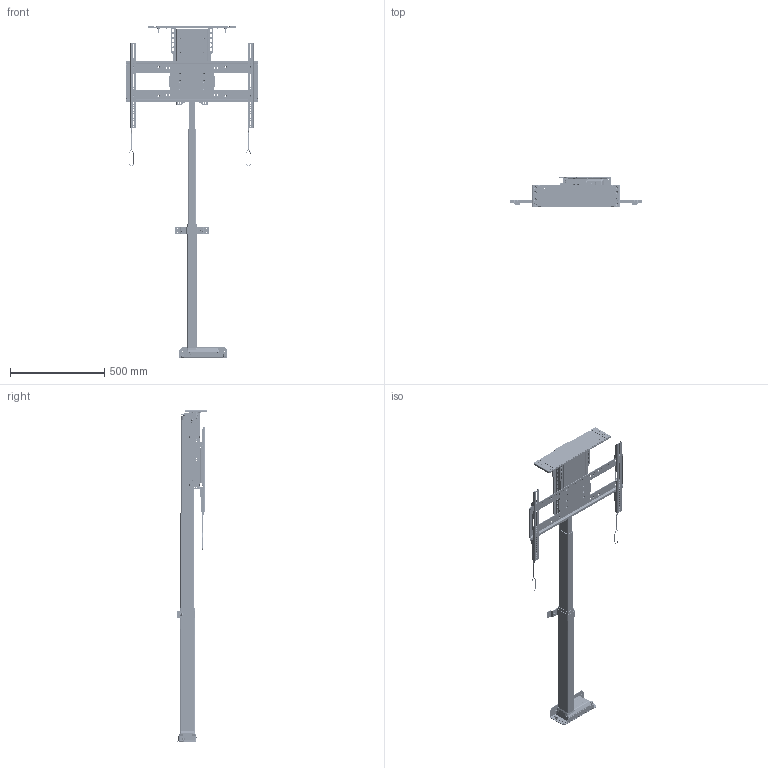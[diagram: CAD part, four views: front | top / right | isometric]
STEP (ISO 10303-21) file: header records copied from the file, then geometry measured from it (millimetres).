
FILE_DESCRIPTION(/* description */ ('STEP AP242','CAx-IF Rec.Pracs.---Representation and Presentation of Product Manufacturing Information (PMI)---4.0---2014-10-13','CAx-IF Rec.Pracs.---3D Tessellated Geometry---0.4---2014-09-14','2;1'),/* implementation_level */ '2;1');
FILE_NAME(/* name */ '63effb88e841dc2814847fd2',/* time_stamp */ '2023-02-17T22:11:25+00:00',/* author */ (''),/* organization */ (''),/* preprocessor_version */ 'ST-DEVELOPER v18.102',/* originating_system */ ' ',/* authorisation */ ' ');
FILE_SCHEMA (('AP242_MANAGED_MODEL_BASED_3D_ENGINEERING_MIM_LF { 1 0 10303 442 1 1 4 }'));
Products named in the file (60): L-65/s; Hex socket countersunk head screw M6x1 x 12; Socket button head screw M6x1 x 12; WDS8151-215; Universal Swivel Master Assembly <1>; Socket button head screw M6x1 x 10; SW-NE-005 - SWIVEL TOP PLATE; NEX-SW-001 - DL16 SWIVEL BOTTOM SPACER; SW-NE-002 - SWIVEL BOTTOM PLATE; ULS-NX-108 - ULS SCREEN SUPPORT WELDMENT <1>; PEM CLS-M6-1  ; F-M6-3 M6 PEM NUT; ULS-NX-008 - UL SCREEN SUPPORT SHELL; ULS-NX-009 - ULS SCREEN SUPPORT TOP PLATE <1>; ULS-NX-009 - UL SCREEN SUPPORT TOP PLATE; Lid Plate Assembly W/ Lid Supports <1>; ULS-NX-012 - ULS LID SUPPORT W PEMS <1>; PEM CLS-M6-2  ; UL LID SUPPORT (ULS-NX-012); ULS-NX-012 - ULS LID SUPPORT W PEMS <2>; LID-FL-ULS - ULS Lid Plate Assembly <1>; ULS-NX-006 - Lid Adapter W/ Pin <1>; OLD_ULS-NX-006 - UL LID ADAPTER <1>; ULS-NX-006 - UL LID ADAPTER; FHS-273-24 PEM; FL Sub Asm <1>; 97069A106_Zinc-Plated Steel Spring Lock Washer; Plain washer large grade A M6; Hex socket countersunk head screw M6x1 x 8; ULS-NX-007 - UL LID PLATE EXTENDER; Hex nut grade C M6x1; NEX-LM-032 LID PIN GUIDE; ULS-NX-005 - UL LID PLATE W PEMS <1>; ULS-NX-005 - UL LID PLATE; PEM FHS-M6-15  ; SBP & VMB <1>; PZ Pan head screw M5x0.80 x 25; ULS-NX-017 - UL SCREEN BACK PLATE; Lanyard; ULS-NX-118 - UL VMB WELDMENT <2>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
Assembly tree (176 placements, depth 6):
  L-65/s
    Hex socket countersunk head screw M6x1 x 12  x16
    Socket button head screw M6x1 x 12  x8
    WDS8151-215  x4
    Universal Swivel Master Assembly <1>
      Socket button head screw M6x1 x 10  x4
      SW-NE-005 - SWIVEL TOP PLATE
      NEX-SW-001 - DL16 SWIVEL BOTTOM SPACER
      SW-NE-002 - SWIVEL BOTTOM PLATE
    ULS-NX-108 - ULS SCREEN SUPPORT WELDMENT <1>
      PEM CLS-M6-1    x32
      F-M6-3 M6 PEM NUT
      ULS-NX-008 - UL SCREEN SUPPORT SHELL
      ULS-NX-009 - ULS SCREEN SUPPORT TOP PLATE <1>
        PEM CLS-M6-1    x4
        ULS-NX-009 - UL SCREEN SUPPORT TOP PLATE
    Lid Plate Assembly W/ Lid Supports <1>
      ULS-NX-012 - ULS LID SUPPORT W PEMS <1>
        PEM CLS-M6-2    x2
        UL LID SUPPORT (ULS-NX-012)
      ULS-NX-012 - ULS LID SUPPORT W PEMS <2>
        PEM CLS-M6-2    x2
        UL LID SUPPORT (ULS-NX-012)
      LID-FL-ULS - ULS Lid Plate Assembly <1>
        ULS-NX-006 - Lid Adapter W/ Pin <1>
          OLD_ULS-NX-006 - UL LID ADAPTER <1>
            ULS-NX-006 - UL LID ADAPTER
            FHS-273-24 PEM  x2
        FL Sub Asm <1>
          97069A106_Zinc-Plated Steel Spring Lock Washer  x4
          Plain washer large grade A M6  x4
          Hex socket countersunk head screw M6x1 x 8  x4
          ULS-NX-007 - UL LID PLATE EXTENDER  x2
          Hex nut grade C M6x1  x4
          NEX-LM-032 LID PIN GUIDE  x2
          ULS-NX-005 - UL LID PLATE W PEMS <1>
            PEM CLS-M6-2    x8
            ULS-NX-005 - UL LID PLATE
            PEM FHS-M6-15    x4
    SBP & VMB <1>
      PZ Pan head screw M5x0.80 x 25  x2
      ULS-NX-017 - UL SCREEN BACK PLATE
      Lanyard  x2
      ULS-NX-118 - UL VMB WELDMENT <2>
        Socket button head cap screw #6-32 x 0.188  x2
        VMB Washer  x4
        ULS-NX-019 - UL LEVEL ADJUSTMENT PLATE
        PEM BSO-632-10  ZI  x2
        90107A012  x2
        ULS-NX-018 - UL VERICAL MOUNTING BAR
        ULS-NX-020 - UL SCREEN LOCK
      ULS-NX-118 - UL VMB WELDMENT <1>
        VMB Washer  x4
        Socket button head cap screw #6-32 x 0.188  x2
        PEM BSO-632-10  ZI  x2
        ULS-NX-020 - UL SCREEN LOCK
        ULS-NX-018 - UL VERICAL MOUNTING BAR
        90107A012  x2
        ULS-NX-019 - UL LEVEL ADJUSTMENT PLATE
    L-65 Lower Sub Assembly <1>
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Bounding box: 698.5 x 159.35 x 1760.38 mm (x, y, z)
Volume: 8977351.4 mm3; surface area: 1895907.9 mm2
Topology: 158 solids, 158 shells, 10943 faces, 29170 edges, 18902 vertices
Faces by surface type: plane 7528, cylinder 1966, cone 734, bspline 463, torus 214, sphere 38
Full cylindrical faces by diameter (mm): 1.778 x2, 2.032 x14, 2.642 x4, 3.175 x10, 3.505 x4, 4.6 x2, 4.917 x53, 5 x22, 5.004 x4, 5.026 x4, 5.08 x4, 5.277 x8, 5.3 x6, 5.385 x12, 5.41 x8, 5.6 x4, 5.613 x6, 5.944 x4, 5.994 x3, 6 x66, 6.35 x22, 6.4 x4, 6.528 x5, 6.6 x10, 6.604 x4, 6.655 x4, 6.934 x2, 6.976 x1, 7.112 x2, 7.137 x1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
Entity records: 102362 total; most frequent: CARTESIAN_POINT 19782, DIRECTION 16245, ORIENTED_EDGE 15578, EDGE_CURVE 7789, AXIS2_PLACEMENT_3D 5651, VERTEX_POINT 5213, LINE 4943, VECTOR 4943
